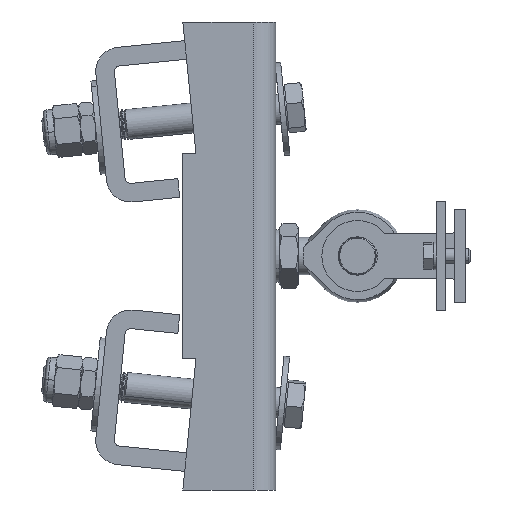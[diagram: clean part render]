
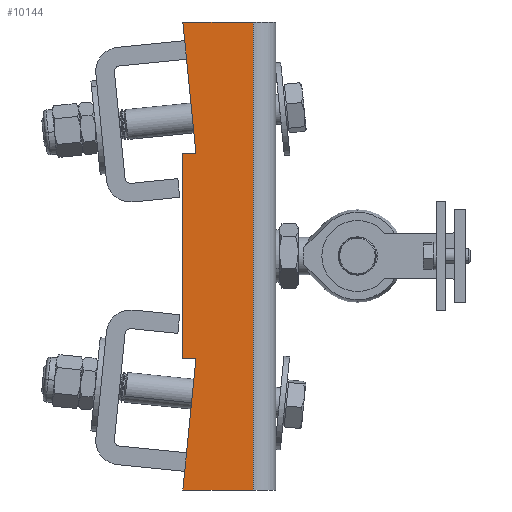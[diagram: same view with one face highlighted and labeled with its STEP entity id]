
A CAD part, left-side view. The second image highlights one B-rep face of the part: STEP entity #10144.
In plain terms, the highlighted planar face has unit normal (-1, 0, 0).
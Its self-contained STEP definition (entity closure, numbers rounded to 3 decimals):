
#516 = FACE_OUTER_BOUND ( 'NONE', #8169, .T. ) ;
#2057 = DIRECTION ( 'NONE',  ( 0., 1., 0. ) ) ;
#2480 = PLANE ( 'NONE',  #16299 ) ;
#2822 = DIRECTION ( 'NONE',  ( 1., 0., 0. ) ) ;
#2835 = CARTESIAN_POINT ( 'NONE',  ( -41., 29.684, 250. ) ) ;
#3980 = CARTESIAN_POINT ( 'NONE',  ( -41., 29.684, 180. ) ) ;
#4006 = CARTESIAN_POINT ( 'NONE',  ( -41., 29.684, 70. ) ) ;
#4020 = CARTESIAN_POINT ( 'NONE',  ( -41., 22.684, 70. ) ) ;
#4073 = CARTESIAN_POINT ( 'NONE',  ( -41., -7.92, 250. ) ) ;
#4120 = CARTESIAN_POINT ( 'NONE',  ( -41., 29.684, 0. ) ) ;
#4126 = CARTESIAN_POINT ( 'NONE',  ( -41., 22.684, 180. ) ) ;
#4192 = CARTESIAN_POINT ( 'NONE',  ( -41., -7.92, 0. ) ) ;
#4717 = CARTESIAN_POINT ( 'NONE',  ( -41., 29.684, 250. ) ) ;
#8169 = EDGE_LOOP ( 'NONE', ( #8408, #8396, #8393, #8395, #8398, #8402, #8403, #8404 ) ) ;
#8393 = ORIENTED_EDGE ( 'NONE', *, *, #15403, .F. ) ;
#8395 = ORIENTED_EDGE ( 'NONE', *, *, #15404, .F. ) ;
#8396 = ORIENTED_EDGE ( 'NONE', *, *, #15400, .F. ) ;
#8398 = ORIENTED_EDGE ( 'NONE', *, *, #15462, .F. ) ;
#8402 = ORIENTED_EDGE ( 'NONE', *, *, #15371, .F. ) ;
#8403 = ORIENTED_EDGE ( 'NONE', *, *, #15370, .F. ) ;
#8404 = ORIENTED_EDGE ( 'NONE', *, *, #15368, .F. ) ;
#8408 = ORIENTED_EDGE ( 'NONE', *, *, #15394, .F. ) ;
#8505 = VERTEX_POINT ( 'NONE', #4717 ) ;
#8521 = VERTEX_POINT ( 'NONE', #3980 ) ;
#8528 = VERTEX_POINT ( 'NONE', #4006 ) ;
#8532 = VERTEX_POINT ( 'NONE', #4020 ) ;
#8553 = VERTEX_POINT ( 'NONE', #4073 ) ;
#8578 = VERTEX_POINT ( 'NONE', #4120 ) ;
#8579 = VERTEX_POINT ( 'NONE', #4126 ) ;
#8615 = VERTEX_POINT ( 'NONE', #4192 ) ;
#10144 = ADVANCED_FACE ( 'NONE', ( #516 ), #2480, .F. ) ;
#10735 = CARTESIAN_POINT ( 'NONE',  ( -41., 29.684, 250. ) ) ;
#10737 = DIRECTION ( 'NONE',  ( 0., -1., 0. ) ) ;
#10739 = CARTESIAN_POINT ( 'NONE',  ( -41., -7.92, 250. ) ) ;
#10741 = DIRECTION ( 'NONE',  ( 0., 0., -1. ) ) ;
#10743 = CARTESIAN_POINT ( 'NONE',  ( -41., 29.684, 0. ) ) ;
#10745 = DIRECTION ( 'NONE',  ( 0., 1., 0. ) ) ;
#10825 = CARTESIAN_POINT ( 'NONE',  ( -41., 22.684, 180. ) ) ;
#10827 = DIRECTION ( 'NONE',  ( 0., 0.1, 0.995 ) ) ;
#10828 = CARTESIAN_POINT ( 'NONE',  ( -41., 29.684, 180. ) ) ;
#10829 = DIRECTION ( 'NONE',  ( 0., -1., 0. ) ) ;
#10835 = CARTESIAN_POINT ( 'NONE',  ( -41., 29.684, 250. ) ) ;
#10840 = DIRECTION ( 'NONE',  ( 0., 0., 1. ) ) ;
#10841 = CARTESIAN_POINT ( 'NONE',  ( -41., 29.684, 70. ) ) ;
#10843 = DIRECTION ( 'NONE',  ( 0., 1., 0. ) ) ;
#10886 = CARTESIAN_POINT ( 'NONE',  ( -41., 30.684, -10. ) ) ;
#10888 = DIRECTION ( 'NONE',  ( 0., -0.1, 0.995 ) ) ;
#13359 = VECTOR ( 'NONE', #10888, 1000. ) ;
#13362 = LINE ( 'NONE', #10886, #13359 ) ;
#13373 = VECTOR ( 'NONE', #10843, 1000. ) ;
#13375 = VECTOR ( 'NONE', #10840, 1000. ) ;
#13376 = LINE ( 'NONE', #10841, #13373 ) ;
#13379 = VECTOR ( 'NONE', #10829, 1000. ) ;
#13380 = LINE ( 'NONE', #10835, #13375 ) ;
#13385 = LINE ( 'NONE', #10828, #13379 ) ;
#13386 = VECTOR ( 'NONE', #10827, 1000. ) ;
#13389 = LINE ( 'NONE', #10825, #13386 ) ;
#13420 = VECTOR ( 'NONE', #10745, 1000. ) ;
#13422 = VECTOR ( 'NONE', #10741, 1000. ) ;
#13423 = LINE ( 'NONE', #10743, #13420 ) ;
#13424 = VECTOR ( 'NONE', #10737, 1000. ) ;
#13425 = LINE ( 'NONE', #10739, #13422 ) ;
#13430 = LINE ( 'NONE', #10735, #13424 ) ;
#15368 = EDGE_CURVE ( 'NONE', #8505, #8553, #13430, .T. ) ;
#15370 = EDGE_CURVE ( 'NONE', #8553, #8615, #13425, .T. ) ;
#15371 = EDGE_CURVE ( 'NONE', #8615, #8578, #13423, .T. ) ;
#15394 = EDGE_CURVE ( 'NONE', #8579, #8505, #13389, .T. ) ;
#15400 = EDGE_CURVE ( 'NONE', #8521, #8579, #13385, .T. ) ;
#15403 = EDGE_CURVE ( 'NONE', #8528, #8521, #13380, .T. ) ;
#15404 = EDGE_CURVE ( 'NONE', #8532, #8528, #13376, .T. ) ;
#15462 = EDGE_CURVE ( 'NONE', #8578, #8532, #13362, .T. ) ;
#16299 = AXIS2_PLACEMENT_3D ( 'NONE', #2835, #2822, #2057 ) ;
